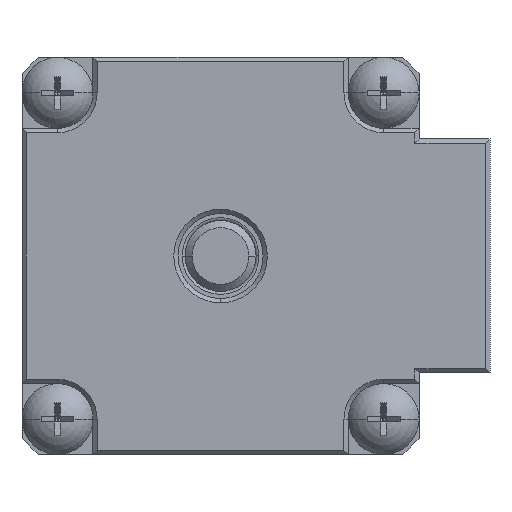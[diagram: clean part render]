
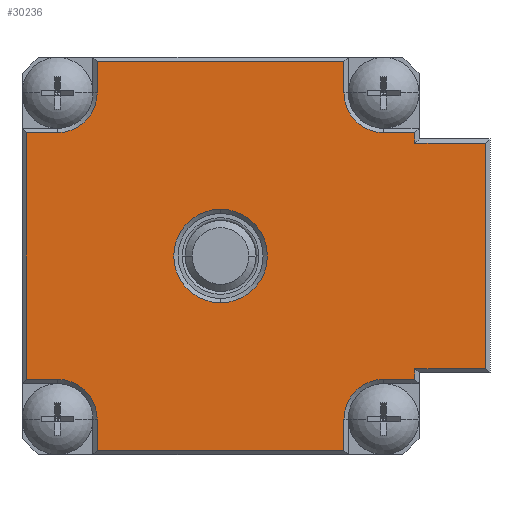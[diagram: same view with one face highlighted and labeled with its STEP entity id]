
A CAD part, front view. The second image highlights one B-rep face of the part: STEP entity #30236.
In plain terms, the highlighted planar face has unit normal (0, -1, 0).
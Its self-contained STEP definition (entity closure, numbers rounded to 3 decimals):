
#799=DIRECTION('',(0.,0.,1.));
#800=VECTOR('',#799,0.75);
#801=CARTESIAN_POINT('',(13.7,-2.5,7.95));
#802=LINE('',#801,#800);
#803=DIRECTION('',(-1.,0.,0.));
#804=VECTOR('',#803,5.);
#805=CARTESIAN_POINT('',(18.7,-2.5,7.95));
#806=LINE('',#805,#804);
#807=DIRECTION('',(0.,0.,-1.));
#808=VECTOR('',#807,15.9);
#809=CARTESIAN_POINT('',(18.7,-2.5,7.95));
#810=LINE('',#809,#808);
#811=DIRECTION('',(-1.,0.,0.));
#812=VECTOR('',#811,5.);
#813=CARTESIAN_POINT('',(18.7,-2.5,-7.95));
#814=LINE('',#813,#812);
#815=DIRECTION('',(0.,0.,1.));
#816=VECTOR('',#815,0.75);
#817=CARTESIAN_POINT('',(13.7,-2.5,-8.7));
#818=LINE('',#817,#816);
#819=DIRECTION('',(1.,0.,0.));
#820=VECTOR('',#819,2.2);
#821=CARTESIAN_POINT('',(11.5,-2.5,-8.7));
#822=LINE('',#821,#820);
#823=CARTESIAN_POINT('',(11.5,-2.5,-11.5));
#824=DIRECTION('',(0.,1.,0.));
#825=DIRECTION('',(-1.,0.,0.));
#826=AXIS2_PLACEMENT_3D('',#823,#824,#825);
#828=DIRECTION('',(0.,0.,1.));
#829=VECTOR('',#828,2.2);
#830=CARTESIAN_POINT('',(8.7,-2.5,-13.7));
#831=LINE('',#830,#829);
#832=DIRECTION('',(1.,0.,0.));
#833=VECTOR('',#832,17.4);
#834=CARTESIAN_POINT('',(-8.7,-2.5,-13.7));
#835=LINE('',#834,#833);
#836=DIRECTION('',(0.,0.,-1.));
#837=VECTOR('',#836,2.2);
#838=CARTESIAN_POINT('',(-8.7,-2.5,
-11.5));
#839=LINE('',#838,#837);
#840=CARTESIAN_POINT('',(-11.5,-2.5,-11.5));
#841=DIRECTION('',(0.,1.,0.));
#842=DIRECTION('',(0.,0.,1.));
#843=AXIS2_PLACEMENT_3D('',#840,#841,#842);
#845=DIRECTION('',(1.,0.,0.));
#846=VECTOR('',#845,2.2);
#847=CARTESIAN_POINT('',(-13.7,-2.5,-8.7));
#848=LINE('',#847,#846);
#849=DIRECTION('',(0.,0.,-1.));
#850=VECTOR('',#849,17.4);
#851=CARTESIAN_POINT('',(-13.7,-2.5,8.7));
#852=LINE('',#851,#850);
#853=DIRECTION('',(-1.,0.,0.));
#854=VECTOR('',#853,2.2);
#855=CARTESIAN_POINT('',(-11.5,-2.5,8.7));
#856=LINE('',#855,#854);
#857=CARTESIAN_POINT('',(-11.5,-2.5,11.5));
#858=DIRECTION('',(0.,1.,0.));
#859=DIRECTION('',(1.,0.,0.));
#860=AXIS2_PLACEMENT_3D('',#857,#858,#859);
#862=DIRECTION('',(0.,0.,-1.));
#863=VECTOR('',#862,2.2);
#864=CARTESIAN_POINT('',(-8.7,-2.5,13.7));
#865=LINE('',#864,#863);
#866=DIRECTION('',(-1.,0.,0.));
#867=VECTOR('',#866,17.4);
#868=CARTESIAN_POINT('',(8.7,-2.5,13.7));
#869=LINE('',#868,#867);
#870=DIRECTION('',(0.,0.,1.));
#871=VECTOR('',#870,2.2);
#872=CARTESIAN_POINT('',(8.7,-2.5,11.5));
#873=LINE('',#872,#871);
#874=CARTESIAN_POINT('',(11.5,-2.5,11.5));
#875=DIRECTION('',(0.,1.,0.));
#876=DIRECTION('',(0.,0.,-1.));
#877=AXIS2_PLACEMENT_3D('',#874,#875,#876);
#879=DIRECTION('',(-1.,0.,0.));
#880=VECTOR('',#879,2.2);
#881=CARTESIAN_POINT('',(13.7,-2.5,8.7));
#882=LINE('',#881,#880);
#883=CARTESIAN_POINT('',(0.,-2.5,0.));
#884=DIRECTION('',(0.,1.,0.));
#885=DIRECTION('',(0.,0.,1.));
#886=AXIS2_PLACEMENT_3D('',#883,#884,#885);
#888=CARTESIAN_POINT('',(0.,-2.5,0.));
#889=DIRECTION('',(0.,1.,0.));
#890=DIRECTION('',(0.,0.,-1.));
#891=AXIS2_PLACEMENT_3D('',#888,#889,#890);
#28317=CARTESIAN_POINT('',(13.7,-2.5,7.95));
#28318=CARTESIAN_POINT('',(13.7,-2.5,8.7));
#28319=VERTEX_POINT('',#28317);
#28320=VERTEX_POINT('',#28318);
#28323=CARTESIAN_POINT('',(18.7,-2.5,7.95));
#28324=VERTEX_POINT('',#28323);
#28325=CARTESIAN_POINT('',(18.7,-2.5,-7.95));
#28326=VERTEX_POINT('',#28325);
#28329=CARTESIAN_POINT('',(13.7,-2.5,-7.95));
#28330=VERTEX_POINT('',#28329);
#28333=CARTESIAN_POINT('',(13.7,-2.5,-8.7));
#28334=VERTEX_POINT('',#28333);
#28339=CARTESIAN_POINT('',(11.5,-2.5,
-8.7));
#28340=VERTEX_POINT('',#28339);
#28341=CARTESIAN_POINT('',(8.7,-2.5,-11.5));
#28342=VERTEX_POINT('',#28341);
#28345=CARTESIAN_POINT('',(8.7,-2.5,-13.7));
#28346=VERTEX_POINT('',#28345);
#28351=CARTESIAN_POINT('',(-8.7,-2.5,-13.7));
#28352=VERTEX_POINT('',#28351);
#28353=CARTESIAN_POINT('',(-13.7,-2.5,-8.7));
#28354=CARTESIAN_POINT('',(-11.5,-2.5,
-8.7));
#28355=VERTEX_POINT('',#28353);
#28356=VERTEX_POINT('',#28354);
#28361=CARTESIAN_POINT('',(-8.7,-2.5,-11.5));
#28362=VERTEX_POINT('',#28361);
#28367=CARTESIAN_POINT('',(-13.7,-2.5,8.7));
#28368=VERTEX_POINT('',#28367);
#28369=CARTESIAN_POINT('',(-8.7,-2.5,13.7));
#28370=CARTESIAN_POINT('',(-8.7,-2.5,
11.5));
#28371=VERTEX_POINT('',#28369);
#28372=VERTEX_POINT('',#28370);
#28377=CARTESIAN_POINT('',(-11.5,-2.5,8.7));
#28378=VERTEX_POINT('',#28377);
#28383=CARTESIAN_POINT('',(8.7,-2.5,13.7));
#28384=VERTEX_POINT('',#28383);
#28385=CARTESIAN_POINT('',(11.5,-2.5,
8.7));
#28386=VERTEX_POINT('',#28385);
#28389=CARTESIAN_POINT('',(8.7,-2.5,11.5));
#28390=VERTEX_POINT('',#28389);
#28469=CARTESIAN_POINT('',(0.,-2.5,3.3));
#28470=CARTESIAN_POINT('',(0.,-2.5,-3.3));
#28471=VERTEX_POINT('',#28469);
#28472=VERTEX_POINT('',#28470);
#30184=CARTESIAN_POINT('',(0.,-2.5,0.));
#30185=DIRECTION('',(0.,1.,0.));
#30186=DIRECTION('',(0.,0.,-1.));
#30187=AXIS2_PLACEMENT_3D('',#30184,#30185,#30186);
#30188=PLANE('',#30187);
#30190=ORIENTED_EDGE('',*,*,#30189,.F.);
#30192=ORIENTED_EDGE('',*,*,#30191,.F.);
#30194=ORIENTED_EDGE('',*,*,#30193,.T.);
#30196=ORIENTED_EDGE('',*,*,#30195,.T.);
#30198=ORIENTED_EDGE('',*,*,#30197,.F.);
#30200=ORIENTED_EDGE('',*,*,#30199,.F.);
#30202=ORIENTED_EDGE('',*,*,#30201,.F.);
#30204=ORIENTED_EDGE('',*,*,#30203,.F.);
#30206=ORIENTED_EDGE('',*,*,#30205,.F.);
#30208=ORIENTED_EDGE('',*,*,#30207,.F.);
#30210=ORIENTED_EDGE('',*,*,#30209,.F.);
#30212=ORIENTED_EDGE('',*,*,#30211,.F.);
#30214=ORIENTED_EDGE('',*,*,#30213,.F.);
#30216=ORIENTED_EDGE('',*,*,#30215,.F.);
#30218=ORIENTED_EDGE('',*,*,#30217,.F.);
#30220=ORIENTED_EDGE('',*,*,#30219,.F.);
#30222=ORIENTED_EDGE('',*,*,#30221,.F.);
#30224=ORIENTED_EDGE('',*,*,#30223,.F.);
#30226=ORIENTED_EDGE('',*,*,#30225,.F.);
#30227=ORIENTED_EDGE('',*,*,#30174,.F.);
#30228=EDGE_LOOP('',(#30190,#30192,#30194,#30196,#30198,#30200,#30202,#30204,
#30206,#30208,#30210,#30212,#30214,#30216,#30218,#30220,#30222,#30224,#30226,
#30227));
#30229=FACE_OUTER_BOUND('',#30228,.F.);
#30231=ORIENTED_EDGE('',*,*,#30230,.F.);
#30233=ORIENTED_EDGE('',*,*,#30232,.F.);
#30234=EDGE_LOOP('',(#30231,#30233));
#30235=FACE_BOUND('',#30234,.F.);
#30236=ADVANCED_FACE('',(#30229,#30235),#30188,.F.);
#827=CIRCLE('',#826,2.8);
#844=CIRCLE('',#843,2.8);
#861=CIRCLE('',#860,2.8);
#878=CIRCLE('',#877,2.8);
#887=CIRCLE('',#886,3.3);
#892=CIRCLE('',#891,3.3);
#30174=EDGE_CURVE('',#28320,#28386,#882,.T.);
#30189=EDGE_CURVE('',#28319,#28320,#802,.T.);
#30191=EDGE_CURVE('',#28324,#28319,#806,.T.);
#30193=EDGE_CURVE('',#28324,#28326,#810,.T.);
#30195=EDGE_CURVE('',#28326,#28330,#814,.T.);
#30197=EDGE_CURVE('',#28334,#28330,#818,.T.);
#30199=EDGE_CURVE('',#28340,#28334,#822,.T.);
#30201=EDGE_CURVE('',#28342,#28340,#827,.T.);
#30203=EDGE_CURVE('',#28346,#28342,#831,.T.);
#30205=EDGE_CURVE('',#28352,#28346,#835,.T.);
#30207=EDGE_CURVE('',#28362,#28352,#839,.T.);
#30209=EDGE_CURVE('',#28356,#28362,#844,.T.);
#30211=EDGE_CURVE('',#28355,#28356,#848,.T.);
#30213=EDGE_CURVE('',#28368,#28355,#852,.T.);
#30215=EDGE_CURVE('',#28378,#28368,#856,.T.);
#30217=EDGE_CURVE('',#28372,#28378,#861,.T.);
#30219=EDGE_CURVE('',#28371,#28372,#865,.T.);
#30221=EDGE_CURVE('',#28384,#28371,#869,.T.);
#30223=EDGE_CURVE('',#28390,#28384,#873,.T.);
#30225=EDGE_CURVE('',#28386,#28390,#878,.T.);
#30230=EDGE_CURVE('',#28471,#28472,#887,.T.);
#30232=EDGE_CURVE('',#28472,#28471,#892,.T.);
